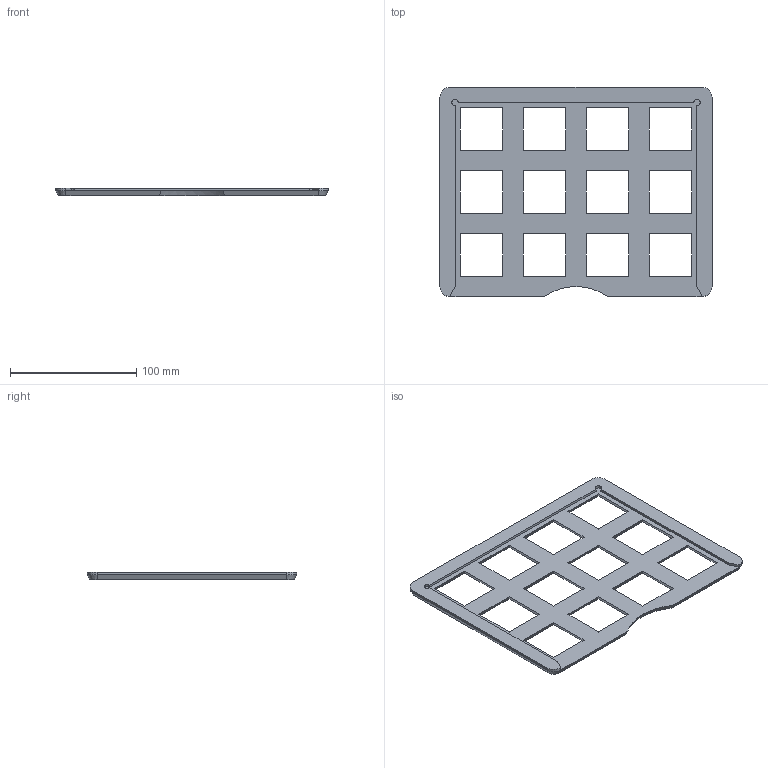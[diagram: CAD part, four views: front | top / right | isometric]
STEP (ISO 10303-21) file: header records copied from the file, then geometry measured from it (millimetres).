
FILE_DESCRIPTION(/* description */ ('STEP AP242','CAx-IF Rec.Pracs.---Representation and Presentation of Product Manufacturing Information (PMI)---4.0---2014-10-13','CAx-IF Rec.Pracs.---3D Tessellated Geometry---0.4---2014-09-14','2;1','CAx-IF Rec.Pracs.---User Defined Attributes---1.5---2016-08-15'),/* implementation_level */ '2;1');
FILE_NAME(/* name */ '6908bb89d6790f146a1d7ede',/* time_stamp */ '2025-11-03T14:26:18Z',/* author */ (''),/* organization */ (''),/* preprocessor_version */ 'ST-DEVELOPER v20',/* originating_system */ 'ONSHAPE BY PTC INC, 1.206',/* authorisation */ ' ');
FILE_SCHEMA (('AP242_MANAGED_MODEL_BASED_3D_ENGINEERING_MIM_LF { 1 0 10303 442 1 1 4 }'));
Length unit declared in the file: metre
Products named in the file (1): Part 1
Bounding box: 216 x 166 x 6 mm (x, y, z)
Volume: 89121.3 mm3; surface area: 51653.1 mm2
Topology: 1 solids, 1 shells, 267 faces, 764 edges, 506 vertices
Faces by surface type: plane 232, bspline 16, cylinder 14, cone 5
Entity records: 8877 total; most frequent: CARTESIAN_POINT 1883, ORIENTED_EDGE 1526, DIRECTION 1287, EDGE_CURVE 763, LINE 695, VECTOR 695, VERTEX_POINT 506, EDGE_LOOP 299
